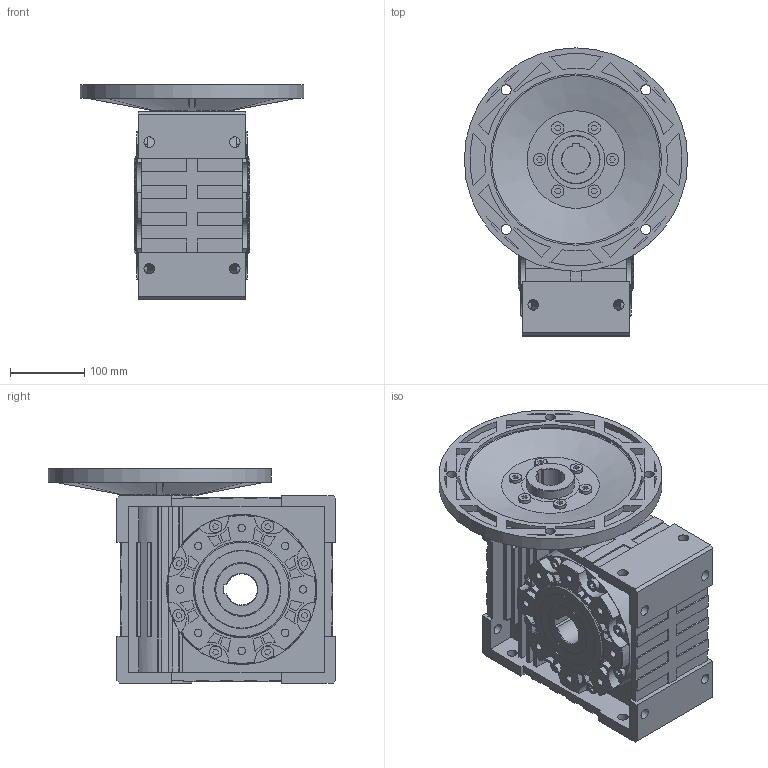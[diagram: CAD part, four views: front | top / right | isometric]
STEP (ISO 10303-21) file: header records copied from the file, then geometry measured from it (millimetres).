
FILE_DESCRIPTION(/* description */ (''),/* implementation_level */ '2;1');
FILE_NAME(/* name */ 'Z:\동력 3D 파일\PCMRV110_132B5_3D.stp',/* time_stamp */ '2021-12-01T17:36:42+09:00',/* author */ ('jaebok'),/* organization */ (''),/* preprocessor_version */ 'ST-DEVELOPER v18.1',/* originating_system */ 'Autodesk Inventor 2022',/* authorisation */ '');
FILE_SCHEMA (('AUTOMOTIVE_DESIGN { 1 0 10303 214 3 1 1 }'));
Length unit declared in the file: millimetre
Products named in the file (1): 부품58
Bounding box: 300 x 386.5 x 288 mm (x, y, z)
Volume: 9345943 mm3; surface area: 722790.5 mm2
Topology: 1 solids, 2 shells, 932 faces, 2379 edges, 1581 vertices
Faces by surface type: plane 624, cylinder 275, cone 33
Full cylindrical faces by diameter (mm): 10 x16, 13.5 x4, 14 x16, 16.5 x16, 16.631 x6, 64.6 x1, 71.4 x2, 77.52 x1, 78.25 x2, 80.25 x2, 103.5 x1, 105 x2, 130 x2, 201.6 x2, 230 x1, 300 x1
Entity records: 29465 total; most frequent: CARTESIAN_POINT 5253, DIRECTION 4777, ORIENTED_EDGE 4758, EDGE_CURVE 2379, LINE 1711, VECTOR 1711, VERTEX_POINT 1581, AXIS2_PLACEMENT_3D 1533
